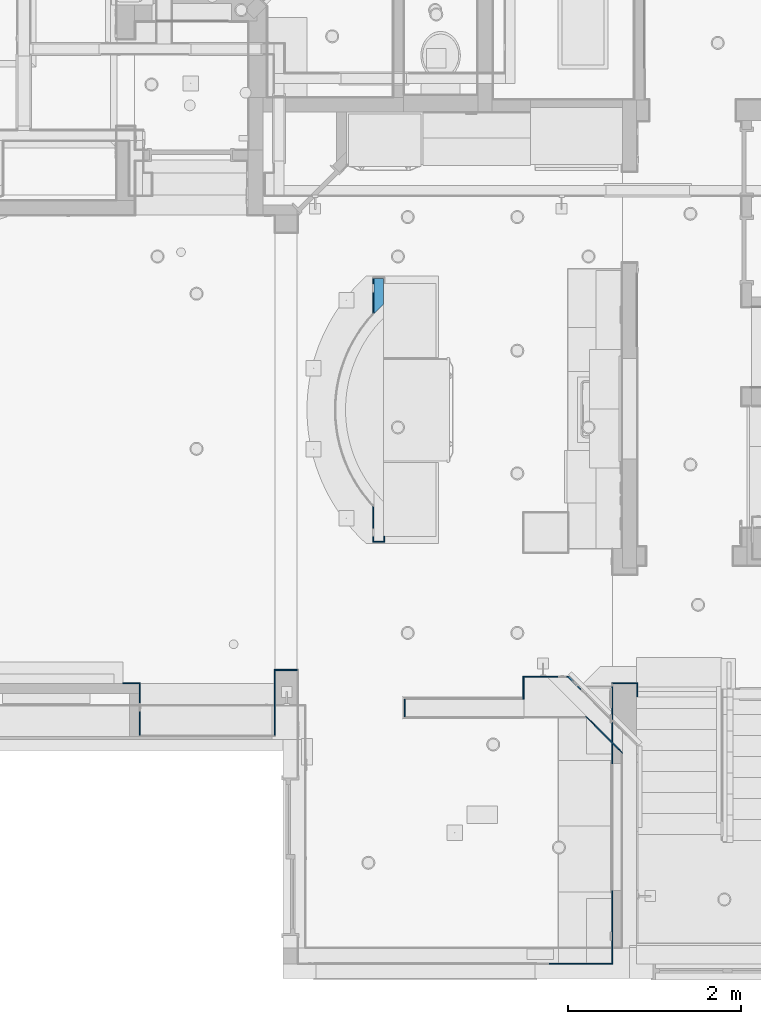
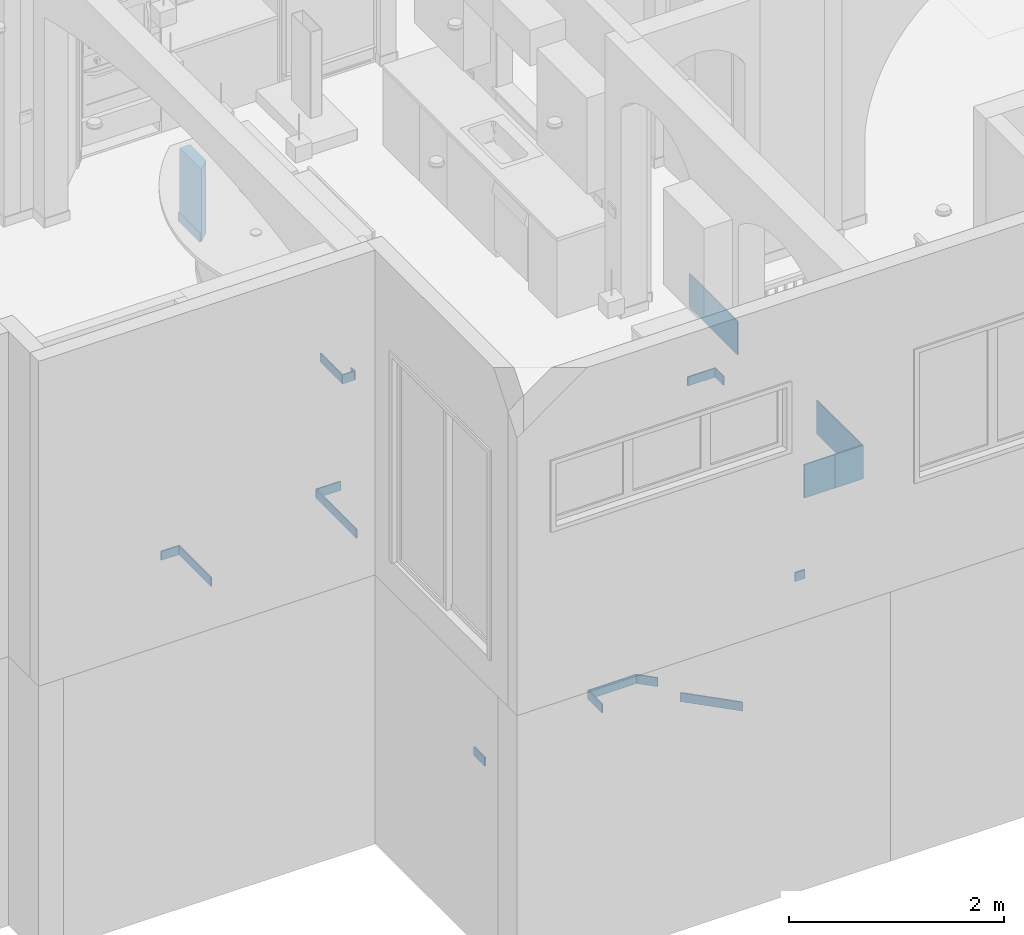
# One storey, part 15 of 60: 21 walls.
"""IFC2X3 building model written with IfcOpenShell, lengths in feet."""

from ifc_helpers import new_model, entity, si_unit, converted_unit, direction, frame, frame_2d, origin, place, context, subcontext, project, spatial, polyline, circle_curve, parameter, trimmed, segment, composite_curve, rectangle, outline, extrude, clip, bounded_halfspace, material, layer, layer_set, layer_usage, type_object, element, save


model = new_model("IFC2X3")

# Units and contexts
model_context = context("Model", 3, precision=0.0001, world=origin(), true_north=direction((6.123031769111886e-17, 1.0)))
plan_context = context("Plan", 3, precision=0.0001, world=origin(), true_north=direction((6.123031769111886e-17, 1.0)))
body_context = subcontext(model_context, "Body", "Model", "MODEL_VIEW")
ifc_project = project(units=[converted_unit("LENGTHUNIT", "FOOT", entity("IfcLengthMeasure", 0.3048), si_unit("LENGTHUNIT", "METRE"), dimensions=[1, 0, 0, 0, 0, 0, 0]), converted_unit("AREAUNIT", "SQUARE FOOT", entity("IfcAreaMeasure", 0.09290304), si_unit("AREAUNIT", "SQUARE_METRE"), dimensions=[2, 0, 0, 0, 0, 0, 0]), converted_unit("PLANEANGLEUNIT", "DEGREE", entity("IfcPlaneAngleMeasure", 0.017453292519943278), si_unit("PLANEANGLEUNIT", "RADIAN"), dimensions=[0, 0, 0, 0, 0, 0, 0])], contexts=[model_context, plan_context])

# Site, building, storey
site_placement = place(None, origin())
site = spatial("IfcSite", under=ifc_project, at=site_placement, Name="Default", CompositionType="ELEMENT")
building_placement = place(site_placement, origin())
building = spatial("IfcBuilding", under=site, at=building_placement, CompositionType="ELEMENT")
storey_placement = place(building_placement, origin())
storey = spatial("IfcBuildingStorey", under=building, at=storey_placement, Name="First floor", CompositionType="ELEMENT", Elevation=0.0)

# Walls
ifc_material = material(Name="Default New Material")
ifc_layer_1 = layer(ifc_material, 0.375)
ifc_layer_set_1 = layer_set([ifc_layer_1], Name="Basic Wall:Wall_4.5\"")
ifc_layer_usage_1 = layer_usage(ifc_layer_set_1, "AXIS2", "NEGATIVE", 0.1875)
wall_type_1 = type_object("IfcWallType", Name="Basic Wall:Wall_4.5\"", PredefinedType="STANDARD", material=ifc_layer_set_1)
wall_1_placement = place(storey_placement, frame((3.6458333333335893, 25.277159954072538, 10.666666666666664), z_axis=(0.0, 0.0, 1.0), x_axis=(0.0, 1.0, 0.0)))
element("IfcWallStandardCase", 1, at=wall_1_placement, inside=storey, type_object=wall_type_1, material=ifc_layer_usage_1, Name="Basic Wall:Wall_4.5\"", ObjectType="Basic Wall:Wall_4.5\"", context=body_context, shape_type="SweptSolid", body=[
    extrude(outline(composite_curve([segment(polyline([(1.3478400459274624, -0.18749999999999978), (1.3478400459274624, 0.18750000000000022)]), True, "CONTINUOUS"), segment(polyline([(1.3478400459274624, 0.18750000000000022), (0.0, 0.1875)]), True, "CONTINUOUS"), segment(trimmed(circle_curve(frame_2d((-3.652159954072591, -3.683125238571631), x_axis=(0.0, -1.0)), 5.3216550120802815), [parameter(131.06144888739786)], [parameter(136.6634293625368)], True, "PARAMETER"), False, "CONTINUOUS"), segment(polyline([(0.3603973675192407, -0.18749999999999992), (1.3478400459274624, -0.18749999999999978)]), True, "CONTINUOUS")], self_intersect=False)), origin(), (0.0, 0.0, 1.0), 2.7083333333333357),
])
ifc_layer_2 = layer(ifc_material, 0.041666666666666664)
ifc_layer_set_2 = layer_set([ifc_layer_2], Name="Basic Wall:Wall Border_T1")
ifc_layer_usage_2 = layer_usage(ifc_layer_set_2, "AXIS2", "NEGATIVE", 0.020833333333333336)
wall_type_2 = type_object("IfcWallType", Name="Basic Wall:Wall Border_T1", PredefinedType="STANDARD", material=ifc_layer_set_2)
wall_2_placement = place(storey_placement, frame((11.321855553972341, 10.999745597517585, 0.0), z_axis=(0.0, 0.0, 1.0), x_axis=(-0.7071067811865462, 0.7071067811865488, 0.0)))
element("IfcWallStandardCase", 2, at=wall_2_placement, inside=storey, type_object=wall_type_2, material=ifc_layer_usage_2, Name="Basic Wall:Wall Border_T1", ObjectType="Basic Wall:Wall Border_T1", context=body_context, shape_type="Clipping", body=[
    clip(clip(extrude(rectangle(XDim=0.6874999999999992, YDim=0.041666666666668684, at=frame_2d((0.3437499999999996, -1.214306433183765e-17), x_axis=(-1.0, 0.0))), origin(), (0.0, 0.0, 1.0), 0.3333333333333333), bounded_halfspace(frame((0.6580372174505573, 0.008629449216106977, 0.3333333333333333), z_axis=(-0.7071067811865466, 0.7071067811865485, 0.0), x_axis=(-0.7071067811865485, -0.7071067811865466, 0.0)), True, frame((0.6580372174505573, 0.008629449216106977, 0.3333333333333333), z_axis=(-0.7071067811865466, 0.7071067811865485, 0.0), x_axis=(-0.7071067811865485, -0.7071067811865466, 0.0)), polyline([(0.0, 0.0), (-0.017258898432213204, 0.0), (-0.017258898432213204, -0.3333333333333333), (0.0, -0.3333333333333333), (0.0, 0.0)]))), bounded_halfspace(frame((0.6580372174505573, 0.008629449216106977, 0.0), z_axis=(-0.7071067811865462, -0.7071067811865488, 0.0), x_axis=(-0.7071067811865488, 0.7071067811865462, 0.0)), True, frame((0.6580372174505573, 0.008629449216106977, 0.0), z_axis=(-0.7071067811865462, -0.7071067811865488, 0.0), x_axis=(-0.7071067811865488, 0.7071067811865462, 0.0)), polyline([(0.0, 0.0), (-0.04166666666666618, 0.0), (-0.04166666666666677, -0.3333333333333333), (0.0, -0.3333333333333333), (0.0, 0.0)]))),
])
ifc_layer_usage_3 = layer_usage(ifc_layer_set_2, "AXIS2", "NEGATIVE", 0.020833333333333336)
wall_3_placement = place(storey_placement, frame((10.850451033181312, 11.479779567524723, 0.0), z_axis=(0.0, 0.0, 1.0), x_axis=(-1.0, 0.0, 0.0)))
element("IfcWallStandardCase", 3, at=wall_3_placement, inside=storey, type_object=wall_type_2, material=ifc_layer_usage_3, Name="Basic Wall:Wall Border_T1", ObjectType="Basic Wall:Wall Border_T1", context=body_context, shape_type="Clipping", body=[
    clip(extrude(rectangle(XDim=1.6789833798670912, YDim=0.04166666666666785, at=frame_2d((0.8394916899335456, -6.418476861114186e-17), x_axis=(-1.0, 0.0))), origin(), (0.0, 0.0, 1.0), 0.3333333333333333), bounded_halfspace(frame((1.6789833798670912, -0.02083333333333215, 0.3333333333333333), z_axis=(-1.0, 0.0, 0.0), x_axis=(0.0, -1.0, 0.0)), True, frame((1.6789833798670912, -0.02083333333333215, 0.3333333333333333), z_axis=(-1.0, 0.0, 0.0), x_axis=(0.0, -1.0, 0.0)), polyline([(0.0, 0.0), (-0.041666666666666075, 0.0), (-0.041666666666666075, -0.3333333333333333), (0.0, -0.3333333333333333), (0.0, 0.0)]))),
])
ifc_layer_usage_4 = layer_usage(ifc_layer_set_2, "AXIS2", "NEGATIVE", 0.020833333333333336)
wall_4_placement = place(storey_placement, frame((9.150634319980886, 11.50061290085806, 0.0), z_axis=(0.0, 0.0, 1.0), x_axis=(0.0, -1.0, 0.0)))
element("IfcWallStandardCase", 4, at=wall_4_placement, inside=storey, type_object=wall_type_2, material=ifc_layer_usage_4, Name="Basic Wall:Wall Border_T1", ObjectType="Basic Wall:Wall Border_T1", context=body_context, shape_type="SweptSolid", body=[
    extrude(rectangle(XDim=0.8755551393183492, YDim=0.04166666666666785, at=frame_2d((0.4377775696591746, 4.5102810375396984e-17), x_axis=(-1.0, 0.0))), origin(), (0.0, 0.0, 1.0), 0.3333333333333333),
])
ifc_layer_usage_5 = layer_usage(ifc_layer_set_2, "AXIS2", "NEGATIVE", 0.020833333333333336)
wall_5_placement = place(storey_placement, frame((11.523106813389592, 9.973064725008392, 0.0), z_axis=(0.0, 0.0, 1.0), x_axis=(0.7071067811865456, -0.7071067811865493, 0.0)))
element("IfcWallStandardCase", 5, at=wall_5_placement, inside=storey, type_object=wall_type_2, material=ifc_layer_usage_5, Name="Basic Wall:Wall Border_T1", ObjectType="Basic Wall:Wall Border_T1", context=body_context, shape_type="SweptSolid", body=[
    extrude(outline(polyline([(1.9916245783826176, -0.020833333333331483), (1.9499579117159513, 0.02083333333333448), (0.04166666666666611, 0.020833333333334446), (0.0, -0.020833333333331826), (0.05892556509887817, -0.02083333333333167), (1.9326990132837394, -0.020833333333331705), (1.9916245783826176, -0.020833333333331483)])), origin(), (0.0, 0.0, 1.0), 0.3333333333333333),
])
ifc_layer_usage_6 = layer_usage(ifc_layer_set_2, "AXIS2", "NEGATIVE", 0.020833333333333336)
wall_6_placement = place(storey_placement, frame((13.479166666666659, 10.708333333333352, 10.666666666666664), z_axis=(0.0, 0.0, 1.0), x_axis=(0.0, 1.0, 0.0)))
element("IfcWallStandardCase", 6, at=wall_6_placement, inside=storey, type_object=wall_type_2, material=ifc_layer_usage_6, Name="Basic Wall:Wall Border_T1", ObjectType="Basic Wall:Wall Border_T1", context=body_context, shape_type="SweptSolid", body=[
    extrude(rectangle(XDim=0.5413215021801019, YDim=0.04166666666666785, at=frame_2d((0.27066075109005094, 3.469446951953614e-17), x_axis=(-1.0, 0.0))), origin(), (0.0, 0.0, 1.0), 0.3333333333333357),
])
ifc_layer_usage_7 = layer_usage(ifc_layer_set_2, "AXIS2", "NEGATIVE", 0.020833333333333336)
wall_7_placement = place(storey_placement, frame((13.458333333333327, 11.228821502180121, 10.666666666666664), z_axis=(0.0, 0.0, 1.0), x_axis=(-1.0, 0.0, 0.0)))
element("IfcWallStandardCase", 7, at=wall_7_placement, inside=storey, type_object=wall_type_2, material=ifc_layer_usage_7, Name="Basic Wall:Wall Border_T1", ObjectType="Basic Wall:Wall Border_T1", context=body_context, shape_type="SweptSolid", body=[
    extrude(rectangle(XDim=0.9583333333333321, YDim=0.04166666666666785, at=frame_2d((0.4791666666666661, -1.2663481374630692e-16), x_axis=(-1.0, 0.0))), origin(), (0.0, 0.0, 1.0), 0.3333333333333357),
])
ifc_layer_usage_8 = layer_usage(ifc_layer_set_2, "AXIS2", "NEGATIVE", 0.020833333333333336)
wall_8_placement = place(storey_placement, frame((11.541666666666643, 0.5625000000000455, 13.666666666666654)))
element("IfcWallStandardCase", 8, at=wall_8_placement, inside=storey, type_object=wall_type_2, material=ifc_layer_usage_8, Name="Basic Wall:Wall Border_T1", ObjectType="Basic Wall:Wall Border_T1", context=body_context, shape_type="SweptSolid", body=[
    extrude(rectangle(XDim=1.0000000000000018, YDim=0.04166666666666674, at=frame_2d((0.5000000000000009, -2.2551405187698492e-17), x_axis=(-1.0, 0.0))), origin(), (0.0, 0.0, 1.0), 1.2500000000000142),
])
ifc_layer_usage_9 = layer_usage(ifc_layer_set_2, "AXIS2", "NEGATIVE", 0.020833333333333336)
wall_9_placement = place(storey_placement, frame((12.520833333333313, 0.5833333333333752, 13.666666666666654), z_axis=(0.0, 0.0, 1.0), x_axis=(0.0, 1.0, 0.0)))
element("IfcWallStandardCase", 9, at=wall_9_placement, inside=storey, type_object=wall_type_2, material=ifc_layer_usage_9, Name="Basic Wall:Wall Border_T1", ObjectType="Basic Wall:Wall Border_T1", context=body_context, shape_type="SweptSolid", body=[
    extrude(rectangle(XDim=2.749999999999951, YDim=0.04166666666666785, at=frame_2d((1.3749999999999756, -2.3592239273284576e-16), x_axis=(-1.0, 0.0))), origin(), (0.0, 0.0, 1.0), 1.2500000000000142),
])
ifc_layer_usage_10 = layer_usage(ifc_layer_set_2, "AXIS2", "NEGATIVE", 0.020833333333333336)
wall_10_placement = place(storey_placement, frame((11.541666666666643, 0.5625000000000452, 13.666666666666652), z_axis=(0.0, 0.0, 1.0), x_axis=(-1.0, 0.0, 0.0)))
element("IfcWallStandardCase", 10, at=wall_10_placement, inside=storey, type_object=wall_type_2, material=ifc_layer_usage_10, Name="Basic Wall:Wall Border_T1", ObjectType="Basic Wall:Wall Border_T1", context=body_context, shape_type="SweptSolid", body=[
    extrude(rectangle(XDim=1.0833333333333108, YDim=0.04166666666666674, at=frame_2d((0.5416666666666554, 0.0), x_axis=(-1.0, 0.0))), origin(), (0.0, 0.0, 1.0), 1.2500000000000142),
])
ifc_layer_usage_11 = layer_usage(ifc_layer_set_2, "AXIS2", "NEGATIVE", 0.020833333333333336)
wall_11_placement = place(storey_placement, frame((12.520833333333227, 11.125000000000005, 13.666666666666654), z_axis=(0.0, 0.0, 1.0), x_axis=(0.0, -1.0, 0.0)))
element("IfcWallStandardCase", 11, at=wall_11_placement, inside=storey, type_object=wall_type_2, material=ifc_layer_usage_11, Name="Basic Wall:Wall Border_T1", ObjectType="Basic Wall:Wall Border_T1", context=body_context, shape_type="SweptSolid", body=[
    extrude(rectangle(XDim=2.958333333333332, YDim=0.04166666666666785, at=frame_2d((1.479166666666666, 0.0), x_axis=(-1.0, 0.0))), origin(), (0.0, 0.0, 1.0), 1.2500000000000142),
])
ifc_layer_usage_12 = layer_usage(ifc_layer_set_2, "AXIS2", "NEGATIVE", 0.020833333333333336)
wall_12_placement = place(storey_placement, frame((10.124999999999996, 0.5625000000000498, 10.666666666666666)))
element("IfcWallStandardCase", 12, at=wall_12_placement, inside=storey, type_object=wall_type_2, material=ifc_layer_usage_12, Name="Basic Wall:Wall Border_T1", ObjectType="Basic Wall:Wall Border_T1", context=body_context, shape_type="SweptSolid", body=[
    extrude(rectangle(XDim=0.35416666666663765, YDim=0.04166666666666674, at=frame_2d((0.17708333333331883, 1.9081958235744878e-17), x_axis=(-1.0, 0.0))), origin(), (0.0, 0.0, 1.0), 0.3333333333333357),
])
ifc_layer_usage_13 = layer_usage(ifc_layer_set_2, "AXIS2", "NEGATIVE", 0.020833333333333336)
wall_13_placement = place(storey_placement, frame((0.5416666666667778, 11.729166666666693, 10.666666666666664), z_axis=(0.0, 0.0, 1.0), x_axis=(-1.0, 0.0, 0.0)))
element("IfcWallStandardCase", 13, at=wall_13_placement, inside=storey, type_object=wall_type_2, material=ifc_layer_usage_13, Name="Basic Wall:Wall Border_T1", ObjectType="Basic Wall:Wall Border_T1", context=body_context, shape_type="SweptSolid", body=[
    extrude(rectangle(XDim=0.8750000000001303, YDim=0.04166666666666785, at=frame_2d((0.43750000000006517, 2.42861286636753e-17), x_axis=(-1.0, 0.0))), origin(), (0.0, 0.0, 1.0), 0.3333333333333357),
])
ifc_layer_usage_14 = layer_usage(ifc_layer_set_2, "AXIS2", "NEGATIVE", 0.020833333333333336)
wall_14_placement = place(storey_placement, frame((-0.31250000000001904, 11.708333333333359, 10.666666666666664), z_axis=(0.0, 0.0, 1.0), x_axis=(0.0, -1.0, 0.0)))
element("IfcWallStandardCase", 14, at=wall_14_placement, inside=storey, type_object=wall_type_2, material=ifc_layer_usage_14, Name="Basic Wall:Wall Border_T1", ObjectType="Basic Wall:Wall Border_T1", context=body_context, shape_type="SweptSolid", body=[
    extrude(rectangle(XDim=2.458333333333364, YDim=0.04166666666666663, at=frame_2d((1.229166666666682, 0.0), x_axis=(-1.0, 0.0))), origin(), (0.0, 0.0, 1.0), 0.3333333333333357),
])
ifc_layer_usage_15 = layer_usage(ifc_layer_set_2, "AXIS2", "POSITIVE", -0.020833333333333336)
wall_15_placement = place(storey_placement, frame((-5.4374999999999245, 9.25000000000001, 10.666666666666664), z_axis=(0.0, 0.0, 1.0), x_axis=(0.0, 1.0, 0.0)))
element("IfcWallStandardCase", 15, at=wall_15_placement, inside=storey, type_object=wall_type_2, material=ifc_layer_usage_15, Name="Basic Wall:Wall Border_T1", ObjectType="Basic Wall:Wall Border_T1", context=body_context, shape_type="SweptSolid", body=[
    extrude(rectangle(XDim=1.9999999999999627, YDim=0.041666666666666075, at=frame_2d((0.9999999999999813, 3.8163916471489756e-17), x_axis=(-1.0, 0.0))), origin(), (0.0, 0.0, 1.0), 0.3333333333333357),
])
ifc_layer_usage_16 = layer_usage(ifc_layer_set_2, "AXIS2", "POSITIVE", -0.020833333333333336)
wall_16_placement = place(storey_placement, frame((-5.458333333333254, 11.229166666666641, 10.666666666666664), z_axis=(0.0, 0.0, 1.0), x_axis=(-1.0, 0.0, 0.0)))
element("IfcWallStandardCase", 16, at=wall_16_placement, inside=storey, type_object=wall_type_2, material=ifc_layer_usage_16, Name="Basic Wall:Wall Border_T1", ObjectType="Basic Wall:Wall Border_T1", context=body_context, shape_type="SweptSolid", body=[
    extrude(rectangle(XDim=0.6250000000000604, YDim=0.04166666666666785, at=frame_2d((0.3125000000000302, 0.0), x_axis=(-1.0, 0.0))), origin(), (0.0, 0.0, 1.0), 0.3333333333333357),
])
ifc_layer_usage_17 = layer_usage(ifc_layer_set_2, "AXIS2", "NEGATIVE", 0.020833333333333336)
wall_17_placement = place(storey_placement, frame((3.4375000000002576, 26.625000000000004, 10.666666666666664), z_axis=(0.0, 0.0, 1.0), x_axis=(0.0, -1.0, 0.0)))
element("IfcWallStandardCase", 17, at=wall_17_placement, inside=storey, type_object=wall_type_2, material=ifc_layer_usage_17, Name="Basic Wall:Wall Border_T1", ObjectType="Basic Wall:Wall Border_T1", context=body_context, shape_type="SweptSolid", body=[
    extrude(outline(composite_curve([segment(trimmed(circle_curve(frame_2d((5.0, 3.8914585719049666), x_axis=(0.0, 1.0)), 5.3633216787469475), [parameter(136.1937179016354)], [parameter(136.84056945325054)], True, "PARAMETER"), False, "CONTINUOUS"), segment(polyline([(1.2873891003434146, 0.020833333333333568), (0.0, 0.02083333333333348)]), True, "CONTINUOUS"), segment(polyline([(0.0, 0.020833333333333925), (0.0, -0.020833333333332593)]), True, "CONTINUOUS"), segment(polyline([(0.0, -0.020833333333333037), (1.3313229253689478, -0.02083333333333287)]), True, "CONTINUOUS")], self_intersect=False)), origin(), (0.0, 0.0, 1.0), 0.3333333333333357),
])
ifc_layer_usage_18 = layer_usage(ifc_layer_set_2, "AXIS2", "NEGATIVE", 0.020833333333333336)
wall_18_placement = place(storey_placement, frame((3.854166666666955, 16.812499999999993, 10.666666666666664), z_axis=(0.0, 0.0, 1.0), x_axis=(0.0, -1.0, 0.0)))
element("IfcWallStandardCase", 18, at=wall_18_placement, inside=storey, type_object=wall_type_2, material=ifc_layer_usage_18, Name="Basic Wall:Wall Border_T1", ObjectType="Basic Wall:Wall Border_T1", context=body_context, shape_type="SweptSolid", body=[
    extrude(rectangle(XDim=0.22916666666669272, YDim=0.04166666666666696, at=frame_2d((0.11458333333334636, -3.8163916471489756e-17), x_axis=(-1.0, 0.0))), origin(), (0.0, 0.0, 1.0), 0.3333333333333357),
])
ifc_layer_usage_19 = layer_usage(ifc_layer_set_2, "AXIS2", "NEGATIVE", 0.020833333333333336)
wall_19_placement = place(storey_placement, frame((3.8333333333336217, 16.604166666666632, 10.666666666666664), z_axis=(0.0, 0.0, 1.0), x_axis=(-1.0, 0.0, 0.0)))
element("IfcWallStandardCase", 19, at=wall_19_placement, inside=storey, type_object=wall_type_2, material=ifc_layer_usage_19, Name="Basic Wall:Wall Border_T1", ObjectType="Basic Wall:Wall Border_T1", context=body_context, shape_type="SweptSolid", body=[
    extrude(rectangle(XDim=0.41666666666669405, YDim=0.0416666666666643, at=frame_2d((0.20833333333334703, 8.031769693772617e-16), x_axis=(-1.0, 0.0))), origin(), (0.0, 0.0, 1.0), 0.3333333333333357),
])
ifc_layer_usage_20 = layer_usage(ifc_layer_set_2, "AXIS2", "NEGATIVE", 0.020833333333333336)
wall_20_placement = place(storey_placement, frame((3.437500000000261, 16.624999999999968, 10.666666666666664), z_axis=(0.0, 0.0, 1.0), x_axis=(0.0, 1.0, 0.0)))
element("IfcWallStandardCase", 20, at=wall_20_placement, inside=storey, type_object=wall_type_2, material=ifc_layer_usage_20, Name="Basic Wall:Wall Border_T1", ObjectType="Basic Wall:Wall Border_T1", context=body_context, shape_type="SweptSolid", body=[
    extrude(outline(composite_curve([segment(trimmed(circle_curve(frame_2d((5.0, -3.8914585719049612), x_axis=(0.0, -1.0)), 5.3633216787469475), [parameter(223.15943054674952)], [parameter(223.80628209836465)], True, "PARAMETER"), False, "CONTINUOUS"), segment(polyline([(1.331322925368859, 0.020833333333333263), (0.0, 0.02083333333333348)]), True, "CONTINUOUS"), segment(polyline([(0.0, 0.02083333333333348), (0.0, -0.020833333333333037)]), True, "CONTINUOUS"), segment(polyline([(0.0, -0.020833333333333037), (1.2873891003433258, -0.02083333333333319)]), True, "CONTINUOUS")], self_intersect=False)), origin(), (0.0, 0.0, 1.0), 0.3333333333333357),
])
ifc_layer_usage_21 = layer_usage(ifc_layer_set_2, "AXIS2", "NEGATIVE", 0.020833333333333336)
wall_21_placement = place(storey_placement, frame((4.6297451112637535, 10.624999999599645, 0.0), z_axis=(0.0, 0.0, 1.0), x_axis=(0.0, -1.0, 0.0)))
element("IfcWallStandardCase", 21, at=wall_21_placement, inside=storey, type_object=wall_type_2, material=ifc_layer_usage_21, Name="Basic Wall:Wall Border_T1", ObjectType="Basic Wall:Wall Border_T1", context=body_context, shape_type="SweptSolid", body=[
    extrude(rectangle(XDim=0.6666666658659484, YDim=0.041666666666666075, at=frame_2d((0.3333333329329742, 2.5326962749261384e-16), x_axis=(-1.0, 0.0))), origin(), (0.0, 0.0, 1.0), 0.3333333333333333),
])

save(model, "model.ifc")
